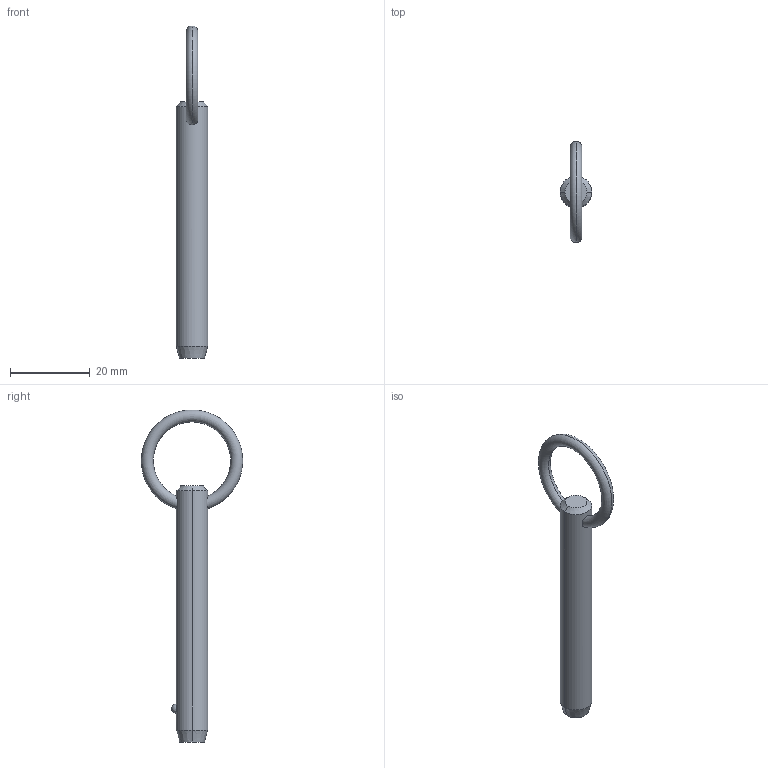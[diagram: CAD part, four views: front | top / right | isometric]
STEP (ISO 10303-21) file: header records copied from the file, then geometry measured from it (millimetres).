
FILE_DESCRIPTION (( 'STEP AP203' ), '1' );
FILE_NAME ('P1250.031-190.step', '2019-07-29T19:50:21', ( '' ), ( '' ), 'SwSTEP 2.0', 'SolidWorks 2017', '' );
FILE_SCHEMA (( 'CONFIG_CONTROL_DESIGN' ));
Length unit declared in the file: millimetre
Products named in the file (1): P1250.031-190
Bounding box: 7.93 x 25.36 x 83.2 mm (x, y, z)
Volume: 3569.8 mm3; surface area: 2234 mm2
Topology: 1 solids, 1 shells, 12 faces, 28 edges, 17 vertices
Faces by surface type: cone 4, torus 2, sphere 2, cylinder 2, plane 2
Entity records: 509 total; most frequent: CARTESIAN_POINT 176, DIRECTION 56, ORIENTED_EDGE 48, AXIS2_PLACEMENT_3D 25, EDGE_CURVE 24, EDGE_LOOP 15, VERTEX_POINT 15, ADVANCED_FACE 12
